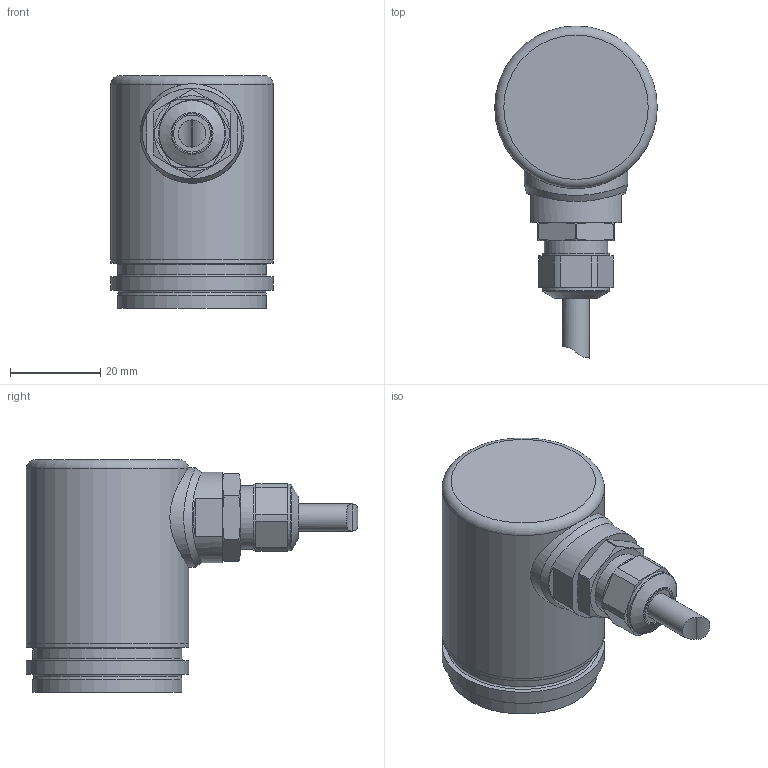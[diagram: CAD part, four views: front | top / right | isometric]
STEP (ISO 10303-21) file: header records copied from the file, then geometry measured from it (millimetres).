
FILE_DESCRIPTION( ( 'Unknown' ), '1' );
FILE_NAME( 'Z:/PJ-RD-MC/10601626_MAGRES_4/20__Produktmanagement/Datenblatt/Vereinfachte Modelle und DAB-Zeichnungen/Februar 2017/36/Kit/Kabelanschluss/EAM360-KWC.7Lxx.xxxxx.A.stp', 'Unknown', ( 'Unknown' ), ( 'Unknown' ), 'PSStep 15.0.49', 'Unknown', ' ' );
FILE_SCHEMA( ( 'AUTOMOTIVE_DESIGN { 1 0 10303 214 1 1 1 1 }' ) );
Length unit declared in the file: millimetre
Products named in the file (13): 11160291 vereinfacht; 11160294 vereinfacht; 10166225; Kabelabgang; 11159953_vereinfacht; 11159955_vereinfacht; 11106443; Kabel; 6Kant Mutter M14; 36 Kit BoMo 12; 11160284_vereinfacht; Assem1; 11161012_vereinfacht
Assembly tree (13 placements, depth 4):
  Assem1
    11161012_vereinfacht
    Kabelabgang
      11159953_vereinfacht
      11159955_vereinfacht
      11106443
      Kabel
      6Kant Mutter M14
    36 Kit BoMo 12
      11160284_vereinfacht
      11160291 vereinfacht
        11160294 vereinfacht
        10166225  x2
Bounding box: 36 x 73.5 x 51.5 mm (x, y, z)
Volume: 51279.3 mm3; surface area: 21118.5 mm2
Topology: 10 solids, 10 shells, 148 faces, 306 edges, 195 vertices
Faces by surface type: plane 64, cylinder 48, cone 19, torus 14, extrusion 2, bspline 1
Full cylindrical faces by diameter (mm): 2.459 x8, 4 x4, 6 x1, 8.2 x1, 10 x1, 12 x1, 12.4 x1, 13.35 x2, 14 x2, 14.8 x2, 20 x1, 21 x1, 23 x1, 33 x2, 34.4 x2, 36 x3
Entity records: 4951 total; most frequent: CARTESIAN_POINT 1162, DIRECTION 588, ORIENTED_EDGE 394, AXIS2_PLACEMENT_3D 261, EDGE_LOOP 224, EDGE_CURVE 197, FACE_OUTER_BOUND 184, VERTEX_POINT 162
